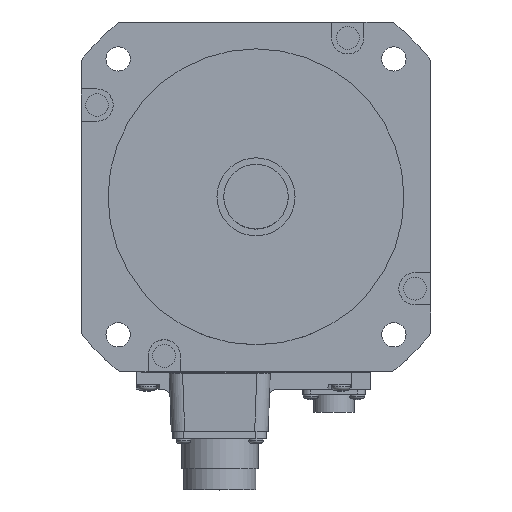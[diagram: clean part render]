
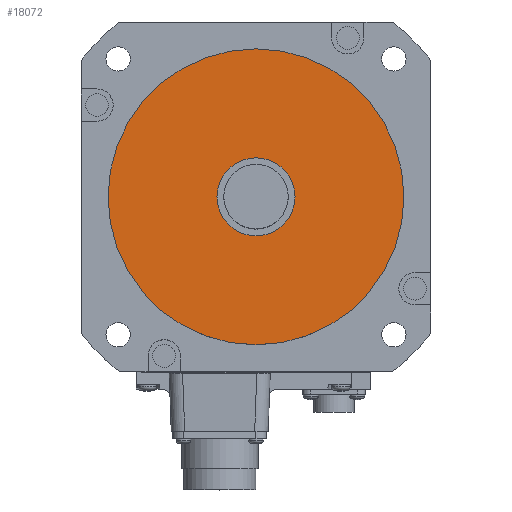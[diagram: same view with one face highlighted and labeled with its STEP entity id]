
A CAD part, top view. The second image highlights one B-rep face of the part: STEP entity #18072.
In plain terms, the highlighted planar face has unit normal (0, 0, 1).
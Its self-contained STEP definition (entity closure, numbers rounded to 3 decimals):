
#6534=CARTESIAN_POINT('',(0.,0.,3.));
#6535=DIRECTION('',(0.,0.,-1.));
#6536=DIRECTION('',(1.,0.,0.));
#6537=AXIS2_PLACEMENT_3D('',#6534,#6535,#6536);
#6539=CARTESIAN_POINT('',(0.,0.,3.));
#6540=DIRECTION('',(0.,0.,-1.));
#6541=DIRECTION('',(-1.,0.,0.));
#6542=AXIS2_PLACEMENT_3D('',#6539,#6540,#6541);
#6544=CARTESIAN_POINT('',(0.,0.,3.));
#6545=DIRECTION('',(0.,0.,1.));
#6546=DIRECTION('',(1.,0.,0.));
#6547=AXIS2_PLACEMENT_3D('',#6544,#6545,#6546);
#6549=CARTESIAN_POINT('',(0.,0.,3.));
#6550=DIRECTION('',(0.,0.,1.));
#6551=DIRECTION('',(-1.,0.,0.));
#6552=AXIS2_PLACEMENT_3D('',#6549,#6550,#6551);
#7324=CARTESIAN_POINT('',(55.,0.,3.));
#7325=VERTEX_POINT('',#7324);
#7326=CARTESIAN_POINT('',(-55.,0.,3.));
#7327=VERTEX_POINT('',#7326);
#8533=CARTESIAN_POINT('',(14.5,0.,3.));
#8534=CARTESIAN_POINT('',(-14.5,0.,3.));
#8535=VERTEX_POINT('',#8533);
#8536=VERTEX_POINT('',#8534);
#18056=CARTESIAN_POINT('',(0.,0.,3.));
#18057=DIRECTION('',(0.,0.,1.));
#18058=DIRECTION('',(1.,0.,0.));
#18059=AXIS2_PLACEMENT_3D('',#18056,#18057,#18058);
#18060=PLANE('',#18059);
#18061=ORIENTED_EDGE('',*,*,#18046,.T.);
#18063=ORIENTED_EDGE('',*,*,#18062,.T.);
#18064=EDGE_LOOP('',(#18061,#18063));
#18065=FACE_OUTER_BOUND('',#18064,.F.);
#18067=ORIENTED_EDGE('',*,*,#18066,.T.);
#18069=ORIENTED_EDGE('',*,*,#18068,.T.);
#18070=EDGE_LOOP('',(#18067,#18069));
#18071=FACE_BOUND('',#18070,.F.);
#18072=ADVANCED_FACE('',(#18065,#18071),#18060,.T.);
#6538=CIRCLE('',#6537,55.);
#6543=CIRCLE('',#6542,55.);
#6548=CIRCLE('',#6547,14.5);
#6553=CIRCLE('',#6552,14.5);
#18046=EDGE_CURVE('',#7325,#7327,#6538,.T.);
#18062=EDGE_CURVE('',#7327,#7325,#6543,.T.);
#18066=EDGE_CURVE('',#8535,#8536,#6548,.T.);
#18068=EDGE_CURVE('',#8536,#8535,#6553,.T.);
